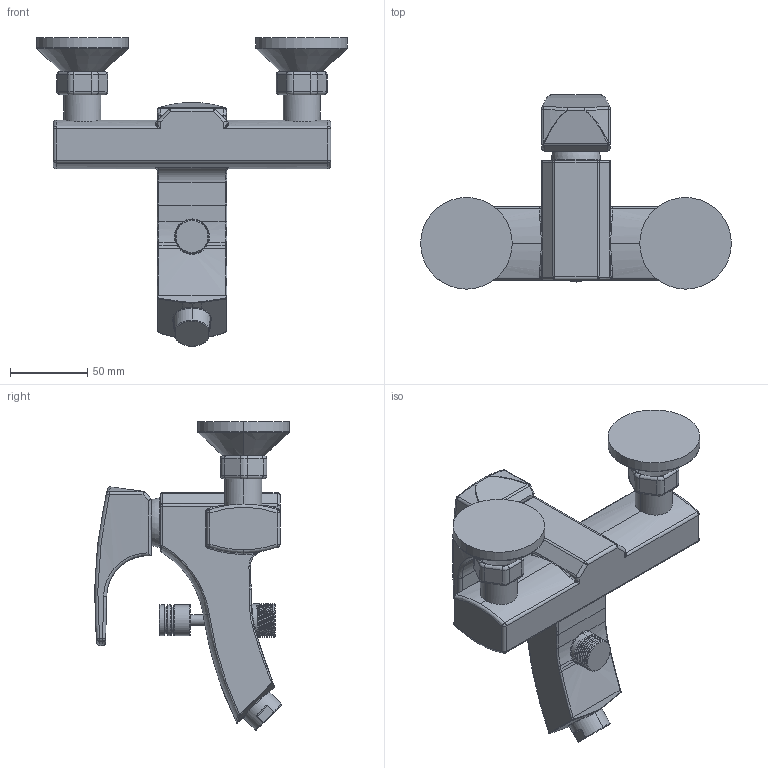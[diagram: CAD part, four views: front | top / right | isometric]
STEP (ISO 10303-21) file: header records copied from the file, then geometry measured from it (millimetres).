
FILE_DESCRIPTION (( 'STEP AP214' ), '1' );
FILE_NAME ('ANCR111LMKM.STEP', '2020-04-18T08:58:24', ( 'Andrey' ), ( '' ), 'SwSTEP 2.0', 'SolidWorks 2017', '' );
FILE_SCHEMA (( 'AUTOMOTIVE_DESIGN' ));
Length unit declared in the file: millimetre
Products named in the file (1): ANCR111LMKM
Bounding box: 201.37 x 126.06 x 200 mm (x, y, z)
Volume: 676827.3 mm3; surface area: 95051.3 mm2
Topology: 6 solids, 6 shells, 436 faces, 1011 edges, 576 vertices
Faces by surface type: cylinder 158, torus 100, bspline 81, plane 67, sphere 26, cone 4
Entity records: 20341 total; most frequent: CARTESIAN_POINT 11063, ORIENTED_EDGE 1988, DIRECTION 1912, EDGE_CURVE 994, AXIS2_PLACEMENT_3D 826, VERTEX_POINT 576, CIRCLE 470, EDGE_LOOP 446
